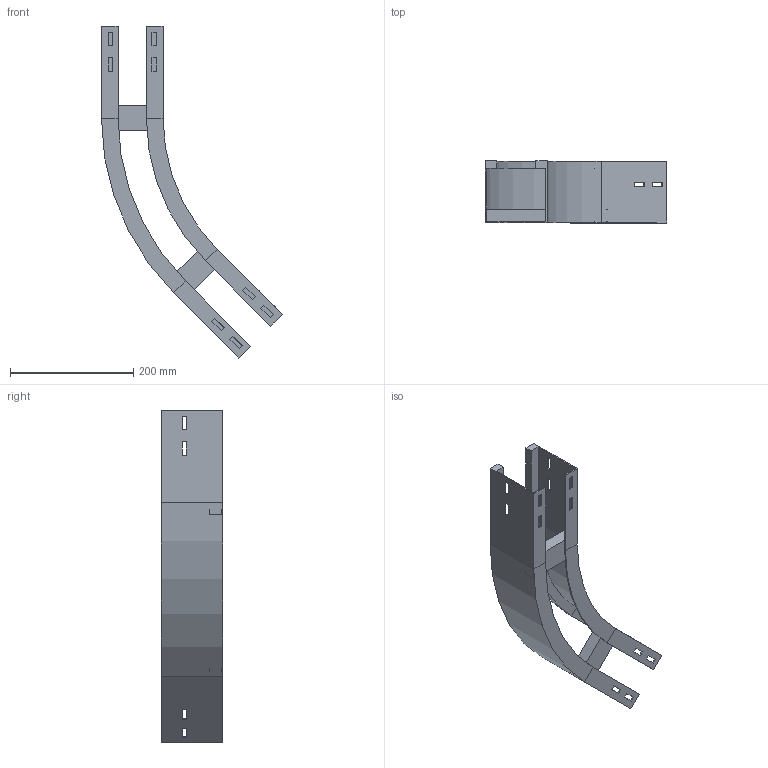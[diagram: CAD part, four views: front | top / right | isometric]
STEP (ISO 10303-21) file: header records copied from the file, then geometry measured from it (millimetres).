
FILE_DESCRIPTION (( 'STEP AP214' ), '1' );
FILE_NAME ('A2_11B3D100.step', '2025-02-21T15:12:12', ( '' ), ( '' ), 'SwSTEP 2.0', 'SolidWorks 2023', '' );
FILE_SCHEMA (( 'AUTOMOTIVE_DESIGN' ));
Length unit declared in the file: millimetre
Products named in the file (4): A2_LONGH.ESTERNO 45°_H100_R300+100; A2_LONGH.INTERNO 45°_H100_R300; TRAVERSINO_100; A2_11B3D100
Assembly tree (4 placements, depth 2):
  A2_11B3D100
    A2_LONGH.INTERNO 45°_H100_R300
    A2_LONGH.ESTERNO 45°_H100_R300+100
    TRAVERSINO_100  x2
Bounding box: 293.93 x 100 x 538.91 mm (x, y, z)
Volume: 658794.2 mm3; surface area: 354004.7 mm2
Topology: 4 solids, 4 shells, 128 faces, 328 edges, 208 vertices
Faces by surface type: plane 120, cylinder 8
Entity records: 3813 total; most frequent: CARTESIAN_POINT 645, ORIENTED_EDGE 632, DIRECTION 590, EDGE_CURVE 316, VECTOR 300, LINE 300, VERTEX_POINT 200, EDGE_LOOP 154
